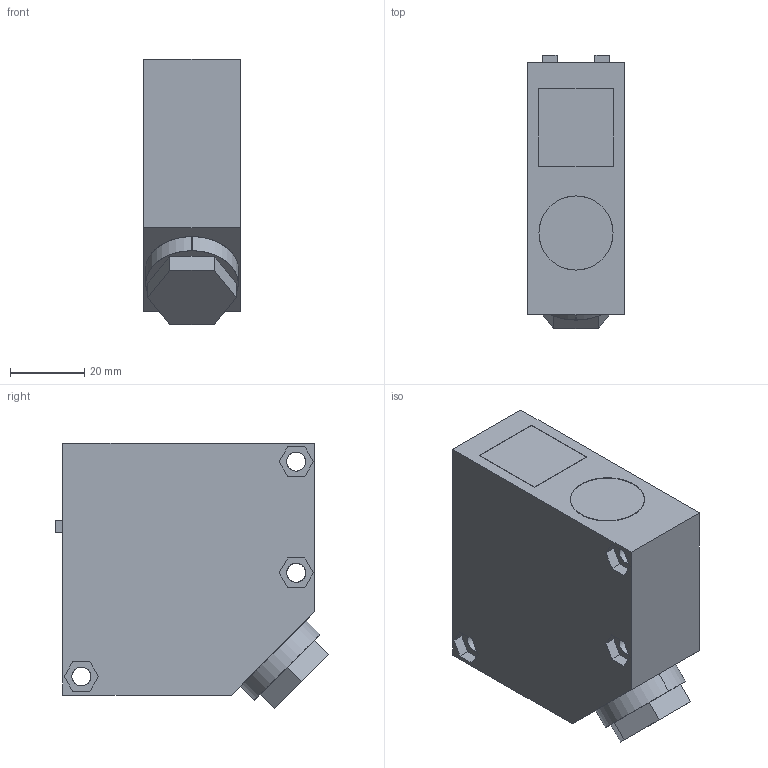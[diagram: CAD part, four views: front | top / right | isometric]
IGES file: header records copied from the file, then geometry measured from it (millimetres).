
Start section: SolidWorks IGES FILE using analytic representation for surfaces
Global section: file name: \\intra-srv04\開発データ\CAD_Data\CAD委員会\3D電子ｶﾀﾛｸﾞ\製品カタログ（新）\0_IGES\EQ-501.IGS,41HSolidWorks 2004; native system: by SolidWorks Corporation; preprocessor: Version 5.3; author: yk0651; date: 050908.105901; units: millimetre
Bounding box: 26 x 73.74 x 71.74 mm (x, y, z)
Surface area: 17769.2 mm2 (no closed solid volume)
Topology: 0 solids, 0 shells, 99 faces, 906 edges, 906 vertices
Faces by surface type: bspline 85, revolution 14
